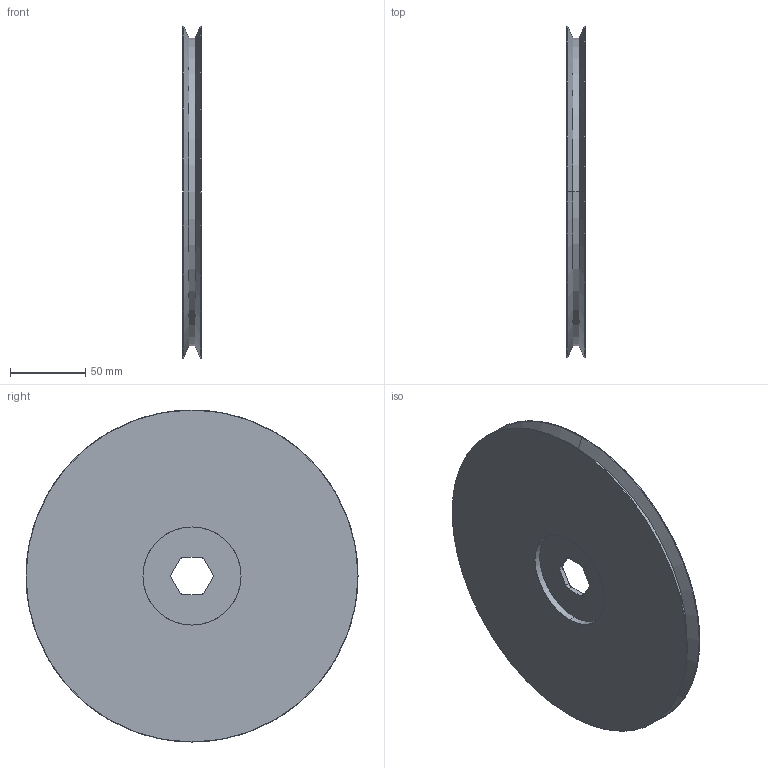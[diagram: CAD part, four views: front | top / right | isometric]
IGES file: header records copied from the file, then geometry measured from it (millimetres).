
Start section: SolidWorks IGES file using analytic representation for surfaces
Global section: file name: C:\Users\Florian\Desktop\Poulie.IGS; native system: SolidWorks 2010; preprocessor: SolidWorks 2010; author: Florian; date: 160711.180525; units: millimetre
Bounding box: 12 x 220 x 220 mm (x, y, z)
Surface area: 91927.8 mm2 (no closed solid volume)
Topology: 0 solids, 0 shells, 30 faces, 484 edges, 484 vertices
Faces by surface type: revolution 20, bspline 10
